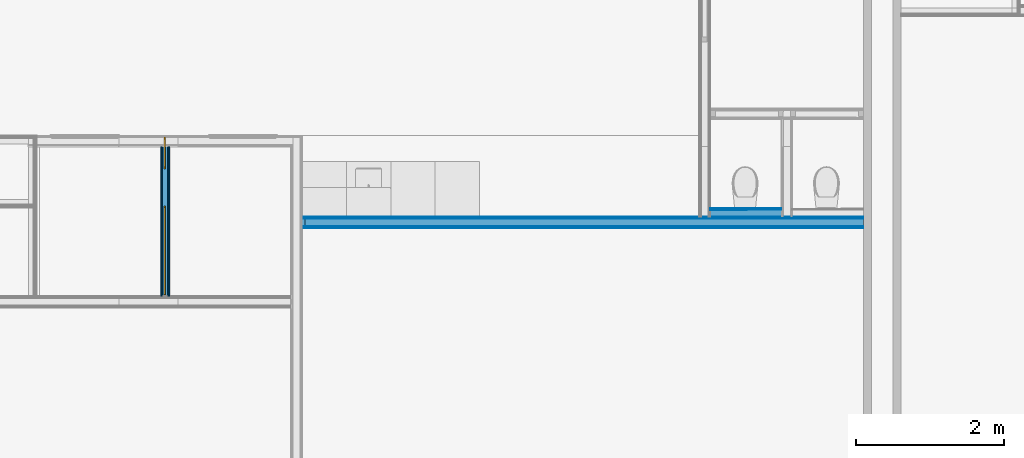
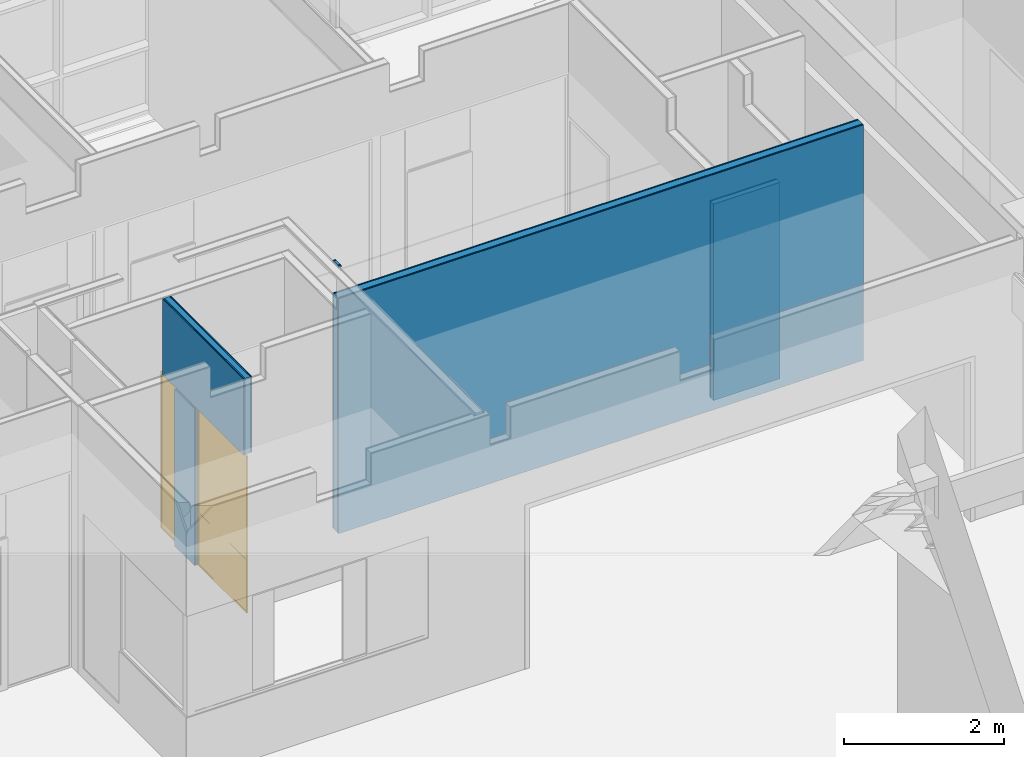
# One storey, part 44 of 109: 13 building element parts, 2 windows, 2 openings, 3 elements without a shape of their own.
"""IFC2X3 building model written with IfcOpenShell, lengths in millimetres."""

from ifc_helpers import new_model, entity, si_unit, converted_unit, derived_unit, money_unit, direction, frame, origin_with_axes, place, context, subcontext, project, spatial, open_shell, faceted_brep, surface_model, material, type_object, element, fill, aggregate, save


model = new_model("IFC2X3")

# Units and contexts
model_context = context("Model", 3, precision=0.01, world=origin_with_axes(), true_north=direction((0.0, 1.0)))
body_context = subcontext(model_context, "Body", "Model", "MODEL_VIEW")
ifc_project = project(units=[si_unit("LENGTHUNIT", "METRE", prefix="MILLI"), si_unit("AREAUNIT", "SQUARE_METRE"), si_unit("VOLUMEUNIT", "CUBIC_METRE"), converted_unit("PLANEANGLEUNIT", "DEGREE", entity("IfcPlaneAngleMeasure", 0.0174532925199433), si_unit("PLANEANGLEUNIT", "RADIAN"), dimensions=[0, 0, 0, 0, 0, 0, 0]), money_unit("EUR"), converted_unit("TIMEUNIT", "Year", entity("IfcTimeMeasure", 31557600.0), si_unit("TIMEUNIT", "SECOND"), dimensions=[0, 0, 1, 0, 0, 0, 0]), si_unit("MASSUNIT", "GRAM", prefix="KILO"), si_unit("THERMODYNAMICTEMPERATUREUNIT", "DEGREE_CELSIUS"), si_unit("LUMINOUSINTENSITYUNIT", "LUMEN"), si_unit("ENERGYUNIT", "JOULE", prefix="MEGA"), derived_unit("THERMALCONDUCTANCEUNIT", [(si_unit("POWERUNIT", "WATT"), 1), (si_unit("LENGTHUNIT", "METRE"), -1), (si_unit("THERMODYNAMICTEMPERATUREUNIT", "KELVIN"), -1)]), derived_unit("SPECIFICHEATCAPACITYUNIT", [(si_unit("ENERGYUNIT", "JOULE"), 1), (si_unit("MASSUNIT", "GRAM", prefix="KILO"), -1), (si_unit("THERMODYNAMICTEMPERATUREUNIT", "KELVIN"), -1)]), derived_unit("MASSDENSITYUNIT", [(si_unit("MASSUNIT", "GRAM", prefix="KILO"), 1), (si_unit("VOLUMEUNIT", "CUBIC_METRE"), -1)])], contexts=[model_context])

# Site, building, storey
site_placement = place(None, origin_with_axes())
site = spatial("IfcSite", under=ifc_project, at=site_placement, Name="<site naam>", CompositionType="ELEMENT")
building_placement = place(site_placement, origin_with_axes())
building = spatial("IfcBuilding", under=site, at=building_placement, Name="<Naam gebouw>", CompositionType="ELEMENT")
storey_placement = place(building_placement, origin_with_axes())
storey = spatial("IfcBuildingStorey", under=building, at=storey_placement, Name="00 Begane grond", CompositionType="ELEMENT", Elevation=0.0)

# Window
window_style = type_object("IfcWindowStyle", Name="R1 27", ConstructionType="NOTDEFINED", OperationType="DOUBLE_PANEL_HORIZONTAL", ParameterTakesPrecedence=False, Sizeable=False)
wall_2_placement = place(storey_placement, frame((2225.000000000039, 14450.00000000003, 0.0), z_axis=(0.0, 0.0, 1.0), x_axis=(0.0, 1.0, 0.0)))
opening_2_placement = place(wall_2_placement, frame((687.4999999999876, 0.0, 0.0), z_axis=(0.0, 0.0, 1.0), x_axis=(1.0, 0.0, 0.0)))
window_1_placement = place(opening_2_placement, frame((612.4999999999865, 0.0, 0.0), z_axis=(0.0, 0.0, 1.0), x_axis=(-1.0, 0.0, 0.0)))
window_1 = element("IfcWindow", 1, at=window_1_placement, inside=storey, type_object=window_style, Name="22_BI-F-28_305", ObjectType="WINDOW", OverallHeight=2400.0, OverallWidth=1225.0, context=body_context, shape_type="SurfaceModel", body=[
    faceted_brep([(24.00000000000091, -16.50000000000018, 788.0), (24.00000000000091, 7.49999999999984, 788.0), (24.00000000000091, 7.49999999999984, 812.0), (24.00000000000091, -16.50000000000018, 812.0), (24.00000000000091, -16.50000000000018, 24.0), (24.00000000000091, 7.49999999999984, 24.0), (0.0, 7.49999999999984, 24.0), (0.0, 7.499999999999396, 2376.0), (24.00000000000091, 7.499999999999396, 2376.0), (24.00000000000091, -16.50000000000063, 2376.0), (0.0, -16.50000000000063, 2376.0), (0.0, -16.50000000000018, 24.0)], [[[0, 1, 2, 3]], [[4, 5, 1, 0]], [[1, 5, 6, 7, 8, 2]], [[3, 2, 8, 9]], [[0, 3, 9, 10, 11, 4]], [[11, 6, 5, 4]], [[10, 7, 6, 11]], [[9, 8, 7, 10]]]),
    faceted_brep([(1200.999999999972, -16.50000000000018, 24.0), (1200.999999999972, 7.49999999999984, 24.0), (1224.999999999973, 7.49999999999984, 24.0), (1224.999999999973, -16.50000000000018, 24.0), (1200.999999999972, -16.50000000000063, 788.0), (1200.999999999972, 7.499999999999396, 788.0), (1200.999999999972, 7.499999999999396, 812.0), (1200.999999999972, 7.499999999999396, 2376.0), (1224.999999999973, 7.499999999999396, 2376.0), (1224.999999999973, -16.50000000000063, 2376.0), (1200.999999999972, -16.50000000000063, 2376.0), (1200.999999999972, -16.50000000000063, 812.0)], [[[0, 1, 2, 3]], [[4, 5, 1, 0]], [[1, 5, 6, 7, 8, 2]], [[3, 2, 8, 9]], [[0, 3, 9, 10, 11, 4]], [[11, 6, 5, 4]], [[10, 7, 6, 11]], [[9, 8, 7, 10]]]),
    faceted_brep([(24.00000000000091, -16.50000000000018, 788.0), (24.00000000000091, 7.49999999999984, 788.0), (1200.999999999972, 7.499999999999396, 788.0), (1200.999999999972, -16.50000000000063, 788.0), (24.00000000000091, -16.50000000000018, 812.0), (24.00000000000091, 7.49999999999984, 812.0), (1200.999999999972, 7.499999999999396, 812.0), (1200.999999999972, -16.50000000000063, 812.0)], [[[0, 1, 2, 3]], [[4, 5, 1, 0]], [[1, 5, 6, 2]], [[3, 2, 6, 7]], [[0, 3, 7, 4]], [[7, 6, 5, 4]]]),
    faceted_brep([(24.00000000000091, -16.50000000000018, 24.0), (24.00000000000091, 7.49999999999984, 24.0), (0.0, 7.49999999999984, 24.0), (0.0, -16.50000000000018, 24.0), (1200.999999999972, -16.50000000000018, 24.0), (1200.999999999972, 7.49999999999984, 24.0), (1224.999999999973, 7.49999999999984, 24.0), (1224.999999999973, 7.49999999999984, 0.0), (0.0, 7.49999999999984, 0.0), (0.0, -16.50000000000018, 0.0), (1224.999999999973, -16.50000000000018, 0.0), (1224.999999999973, -16.50000000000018, 24.0)], [[[0, 1, 2, 3]], [[4, 5, 1, 0]], [[1, 5, 6, 7, 8, 2]], [[3, 2, 8, 9]], [[0, 3, 9, 10, 11, 4]], [[11, 6, 5, 4]], [[10, 7, 6, 11]], [[9, 8, 7, 10]]]),
    faceted_brep([(1200.999999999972, -16.50000000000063, 2376.0), (1200.999999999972, 7.499999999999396, 2376.0), (1224.999999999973, 7.499999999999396, 2376.0), (1224.999999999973, -16.50000000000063, 2376.0), (24.00000000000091, -16.50000000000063, 2376.0), (24.00000000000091, 7.499999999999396, 2376.0), (0.0, 7.499999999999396, 2376.0), (0.0, 7.499999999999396, 2400.0), (1224.999999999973, 7.499999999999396, 2400.0), (1224.999999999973, -16.50000000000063, 2400.0), (0.0, -16.50000000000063, 2400.0), (0.0, -16.50000000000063, 2376.0)], [[[0, 1, 2, 3]], [[4, 5, 1, 0]], [[1, 5, 6, 7, 8, 2]], [[3, 2, 8, 9]], [[0, 3, 9, 10, 11, 4]], [[11, 6, 5, 4]], [[10, 7, 6, 11]], [[9, 8, 7, 10]]]),
    surface_model("IfcShellBasedSurfaceModel", [(24.00000000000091, -12.50000000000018, 812.0), (1200.999999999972, -12.50000000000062, 812.0), (1200.999999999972, -12.50000000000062, 2376.0), (24.00000000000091, -12.50000000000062, 2376.0)], [open_shell([[[0, 1, 2, 3]]])]),
    surface_model("IfcShellBasedSurfaceModel", [(24.00000000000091, 7.49999999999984, 812.0), (24.00000000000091, 7.499999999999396, 2376.0), (1200.999999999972, 7.499999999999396, 2376.0), (1200.999999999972, 7.499999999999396, 812.0)], [open_shell([[[0, 1, 2, 3]]])]),
    surface_model("IfcShellBasedSurfaceModel", [(24.00000000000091, -12.50000000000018, 23.99999999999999), (1200.999999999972, -12.50000000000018, 23.99999999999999), (1200.999999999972, -12.50000000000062, 788.0), (24.00000000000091, -12.50000000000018, 788.0)], [open_shell([[[0, 1, 2, 3]]])]),
    surface_model("IfcShellBasedSurfaceModel", [(24.00000000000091, 7.49999999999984, 24.0), (24.00000000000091, 7.49999999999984, 788.0), (1200.999999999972, 7.499999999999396, 788.0), (1200.999999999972, 7.49999999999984, 24.0)], [open_shell([[[0, 1, 2, 3]]])]),
])

opening_1_placement = place(wall_2_placement, frame((2014.999999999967, 0.0, 0.0), z_axis=(0.0, 0.0, 1.0), x_axis=(1.0, 0.0, 0.0)))
window_2_placement = place(opening_1_placement, frame((214.9999999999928, 0.0, 0.0), z_axis=(0.0, 0.0, 1.0), x_axis=(-1.0, 0.0, 0.0)))
window_2 = element("IfcWindow", 2, at=window_2_placement, inside=storey, type_object=window_style, Name="22_BI-F-29_305", ObjectType="WINDOW", OverallHeight=2400.0, OverallWidth=430.0, context=body_context, shape_type="SurfaceModel", body=[
    faceted_brep([(24.00000000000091, -16.50000000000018, 788.0), (24.00000000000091, 7.49999999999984, 788.0), (24.00000000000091, 7.49999999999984, 812.0), (24.00000000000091, -16.50000000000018, 812.0), (24.00000000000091, -16.50000000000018, 24.0), (24.00000000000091, 7.49999999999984, 24.0), (0.0, 7.49999999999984, 24.0), (0.0, 7.499999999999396, 2376.0), (24.00000000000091, 7.499999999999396, 2376.0), (24.00000000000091, -16.50000000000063, 2376.0), (0.0, -16.50000000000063, 2376.0), (0.0, -16.50000000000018, 24.0)], [[[0, 1, 2, 3]], [[4, 5, 1, 0]], [[1, 5, 6, 7, 8, 2]], [[3, 2, 8, 9]], [[0, 3, 9, 10, 11, 4]], [[11, 6, 5, 4]], [[10, 7, 6, 11]], [[9, 8, 7, 10]]]),
    faceted_brep([(405.9999999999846, -16.50000000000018, 24.0), (405.9999999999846, 7.49999999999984, 24.0), (429.9999999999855, 7.49999999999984, 24.0), (429.9999999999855, -16.50000000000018, 24.0), (405.9999999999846, -16.50000000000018, 788.0), (405.9999999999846, 7.49999999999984, 788.0), (405.9999999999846, 7.49999999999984, 812.0), (405.9999999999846, 7.499999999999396, 2376.0), (429.9999999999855, 7.499999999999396, 2376.0), (429.9999999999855, -16.50000000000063, 2376.0), (405.9999999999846, -16.50000000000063, 2376.0), (405.9999999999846, -16.50000000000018, 812.0)], [[[0, 1, 2, 3]], [[4, 5, 1, 0]], [[1, 5, 6, 7, 8, 2]], [[3, 2, 8, 9]], [[0, 3, 9, 10, 11, 4]], [[11, 6, 5, 4]], [[10, 7, 6, 11]], [[9, 8, 7, 10]]]),
    faceted_brep([(24.00000000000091, -16.50000000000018, 788.0), (24.00000000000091, 7.49999999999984, 788.0), (405.9999999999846, 7.49999999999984, 788.0), (405.9999999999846, -16.50000000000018, 788.0), (24.00000000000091, -16.50000000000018, 812.0), (24.00000000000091, 7.49999999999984, 812.0), (405.9999999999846, 7.49999999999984, 812.0), (405.9999999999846, -16.50000000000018, 812.0)], [[[0, 1, 2, 3]], [[4, 5, 1, 0]], [[1, 5, 6, 2]], [[3, 2, 6, 7]], [[0, 3, 7, 4]], [[7, 6, 5, 4]]]),
    faceted_brep([(24.00000000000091, -16.50000000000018, 24.0), (24.00000000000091, 7.49999999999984, 24.0), (0.0, 7.49999999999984, 24.0), (0.0, -16.50000000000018, 24.0), (405.9999999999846, -16.50000000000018, 24.0), (405.9999999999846, 7.49999999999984, 24.0), (429.9999999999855, 7.49999999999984, 24.0), (429.9999999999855, 7.49999999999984, 0.0), (0.0, 7.49999999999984, 0.0), (0.0, -16.50000000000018, 0.0), (429.9999999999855, -16.50000000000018, 0.0), (429.9999999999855, -16.50000000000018, 24.0)], [[[0, 1, 2, 3]], [[4, 5, 1, 0]], [[1, 5, 6, 7, 8, 2]], [[3, 2, 8, 9]], [[0, 3, 9, 10, 11, 4]], [[11, 6, 5, 4]], [[10, 7, 6, 11]], [[9, 8, 7, 10]]]),
    faceted_brep([(405.9999999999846, -16.50000000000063, 2376.0), (405.9999999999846, 7.499999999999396, 2376.0), (429.9999999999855, 7.499999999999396, 2376.0), (429.9999999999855, -16.50000000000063, 2376.0), (24.00000000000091, -16.50000000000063, 2376.0), (24.00000000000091, 7.499999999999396, 2376.0), (0.0, 7.499999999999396, 2376.0), (0.0, 7.499999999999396, 2400.0), (429.9999999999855, 7.499999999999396, 2400.0), (429.9999999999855, -16.50000000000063, 2400.0), (0.0, -16.50000000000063, 2400.0), (0.0, -16.50000000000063, 2376.0)], [[[0, 1, 2, 3]], [[4, 5, 1, 0]], [[1, 5, 6, 7, 8, 2]], [[3, 2, 8, 9]], [[0, 3, 9, 10, 11, 4]], [[11, 6, 5, 4]], [[10, 7, 6, 11]], [[9, 8, 7, 10]]]),
    surface_model("IfcShellBasedSurfaceModel", [(24.00000000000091, -12.50000000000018, 812.0), (405.9999999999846, -12.50000000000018, 812.0), (405.9999999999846, -12.50000000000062, 2376.0), (24.00000000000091, -12.50000000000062, 2376.0)], [open_shell([[[0, 1, 2, 3]]])]),
    surface_model("IfcShellBasedSurfaceModel", [(24.00000000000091, 7.49999999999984, 812.0), (24.00000000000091, 7.499999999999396, 2376.0), (405.9999999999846, 7.499999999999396, 2376.0), (405.9999999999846, 7.49999999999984, 812.0)], [open_shell([[[0, 1, 2, 3]]])]),
    surface_model("IfcShellBasedSurfaceModel", [(24.00000000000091, -12.50000000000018, 23.99999999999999), (405.9999999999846, -12.50000000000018, 23.99999999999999), (405.9999999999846, -12.50000000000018, 788.0), (24.00000000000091, -12.50000000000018, 788.0)], [open_shell([[[0, 1, 2, 3]]])]),
    surface_model("IfcShellBasedSurfaceModel", [(24.00000000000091, 7.49999999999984, 24.0), (24.00000000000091, 7.49999999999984, 788.0), (405.9999999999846, 7.49999999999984, 788.0), (405.9999999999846, 7.49999999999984, 24.0)], [open_shell([[[0, 1, 2, 3]]])]),
])

# Wall, building element parts
wall_type_1 = type_object("IfcWallType", Name="MS-01 GF 150 ECO DGS/2.100.2.A 150", PredefinedType="NOTDEFINED")
wall_1_placement = place(storey_placement, frame((11665.00000000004, 15524.99999999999, 0.0), z_axis=(0.0, 0.0, 1.0), x_axis=(-1.0, 0.0, 0.0)))
wall_1 = element("IfcWall", 3, at=wall_1_placement, inside=storey, type_object=wall_type_1, Name="22_Binnenwand_MS-01")
ifc_material_1 = material(Name="gipsplaat")
building_element_part_1_placement = place(wall_1_placement, origin_with_axes())
building_element_part_1 = element("IfcBuildingElementPart", 4, at=building_element_part_1_placement, material=ifc_material_1, Name="gipsplaat", context=body_context, shape_type="Brep", body=[
    faceted_brep([(7589.99997176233, 62.5, 3600.0), (7550.000000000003, 62.50000000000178, 3600.0), (0.0, 62.5, 3600.0), (0.0, 62.5, 0.0), (2218.019293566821, 62.5, 0.0), (2218.019293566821, 62.5, 3.000000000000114), (7589.999768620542, 62.5, 3.000000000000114), (7550.000000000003, 75.00014489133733, 3600.0), (7589.99997176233, 74.99999999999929, 3600.0), (4915.000000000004, 74.9999999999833, 3600.0), (0.0, 74.99999999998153, 3600.0), (0.0, 74.99999999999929, 0.0), (2218.019293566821, 75.00014489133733, 0.0), (2218.019293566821, 75.00014489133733, 3.000000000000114), (7589.999768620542, 74.99999999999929, 3.000000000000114)], [[[0, 1, 2, 3, 4, 5, 6]], [[7, 1, 0, 8]], [[1, 7, 9, 10, 2]], [[10, 11, 3, 2]], [[12, 4, 3, 11]], [[5, 4, 12, 13]], [[6, 5, 13, 14]], [[8, 0, 6, 14]], [[7, 8, 14, 13, 12, 11, 10, 9]]]),
    faceted_brep([(7550.000000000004, 75.00000869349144, 4070.0), (7550.000000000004, 62.5, 4070.0), (7550.000000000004, 62.5, 4100.000044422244), (7550.000000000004, 74.99999999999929, 4100.000044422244), (7589.999998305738, 62.5, 4070.0), (7589.999998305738, 74.99999999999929, 4070.0), (7590.000000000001, 62.5, 4100.000044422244), (7590.000000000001, 74.99999999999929, 4100.000044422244)], [[[0, 1, 2, 3]], [[4, 1, 0, 5]], [[1, 4, 6, 2]], [[2, 6, 7, 3]], [[5, 0, 3, 7]], [[4, 5, 7, 6]]]),
])
building_element_part_2_placement = place(wall_1_placement, origin_with_axes())
building_element_part_2 = element("IfcBuildingElementPart", 5, at=building_element_part_2_placement, material=ifc_material_1, Name="gipsplaat", context=body_context, shape_type="Brep", body=[
    faceted_brep([(7589.99997176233, 49.99999999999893, 3600.0), (7550.000000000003, 49.99999999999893, 3600.0), (0.0, 50.00000000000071, 3600.0), (0.0, 50.00000000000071, 0.0), (2218.019293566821, 49.99999999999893, 0.0), (2218.019293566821, 49.99999999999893, 3.000000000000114), (7589.999768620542, 49.99999999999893, 3.000000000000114), (7550.000000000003, 62.50000000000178, 3600.0), (7589.99997176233, 62.5, 3600.0), (0.0, 62.5, 3600.0), (0.0, 62.5, 0.0), (2218.019293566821, 62.5, 0.0), (2218.019293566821, 62.5, 3.000000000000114), (7589.999768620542, 62.5, 3.000000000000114)], [[[0, 1, 2, 3, 4, 5, 6]], [[7, 1, 0, 8]], [[1, 7, 9, 2]], [[9, 10, 3, 2]], [[11, 4, 3, 10]], [[5, 4, 11, 12]], [[6, 5, 12, 13]], [[8, 0, 6, 13]], [[7, 8, 13, 12, 11, 10, 9]]]),
    faceted_brep([(7550.000000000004, 62.5, 4070.0), (7550.000000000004, 49.99999999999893, 4070.0), (7550.000000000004, 49.99999999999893, 4100.000044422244), (7550.000000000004, 62.5, 4100.000044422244), (7589.999998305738, 49.99999999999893, 4070.0), (7589.999998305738, 62.5, 4070.0), (7590.000000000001, 49.99999999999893, 4100.000044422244), (7590.000000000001, 62.5, 4100.000044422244)], [[[0, 1, 2, 3]], [[4, 1, 0, 5]], [[1, 4, 6, 2]], [[2, 6, 7, 3]], [[5, 0, 3, 7]], [[4, 5, 7, 6]]]),
])
ifc_material_2 = material(Name="isolatie_steenwol LSW")
building_element_part_3_placement = place(wall_1_placement, origin_with_axes())
building_element_part_3 = element("IfcBuildingElementPart", 6, at=building_element_part_3_placement, material=ifc_material_2, Name="isolatie_steenwol LSW", context=body_context, shape_type="Brep", body=[
    faceted_brep([(7589.99997176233, -50.00000000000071, 3600.0), (7550.000000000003, -50.00000000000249, 3600.0), (0.0, -49.99999999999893, 3600.0), (0.0, -50.00000000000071, 0.0), (2218.019293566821, -50.00000000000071, 0.0), (2218.019293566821, -50.00000000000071, 3.000000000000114), (7589.999768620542, -50.00000000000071, 3.000000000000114), (7550.000000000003, 49.99999999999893, 3600.0), (7589.99997176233, 49.99999999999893, 3600.0), (0.0, 50.00000000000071, 3600.0), (0.0, 50.00000000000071, 0.0), (2218.019293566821, 50.00000000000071, 0.0), (2218.019293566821, 49.99999999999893, 3.000000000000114), (7589.999768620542, 49.99999999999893, 3.000000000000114)], [[[0, 1, 2, 3, 4, 5, 6]], [[7, 1, 0, 8]], [[1, 7, 9, 2]], [[9, 10, 3, 2]], [[11, 4, 3, 10]], [[5, 4, 11, 12]], [[6, 5, 12, 13]], [[8, 0, 6, 13]], [[7, 8, 13, 12, 11, 10, 9]]]),
    faceted_brep([(7550.000000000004, 49.99999999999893, 4070.0), (7550.000000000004, -50.00000000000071, 4070.0), (7550.000000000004, -50.00000000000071, 4100.000044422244), (7550.000000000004, 49.99999999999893, 4100.000044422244), (7589.999998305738, -50.00000000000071, 4070.0), (7589.999998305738, 49.99999999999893, 4070.0), (7590.000000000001, -50.00000000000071, 4100.000044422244), (7590.000000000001, 49.99999999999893, 4100.000044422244)], [[[0, 1, 2, 3]], [[4, 1, 0, 5]], [[1, 4, 6, 2]], [[2, 6, 7, 3]], [[5, 0, 3, 7]], [[4, 5, 7, 6]]]),
])
building_element_part_4_placement = place(wall_1_placement, origin_with_axes())
building_element_part_4 = element("IfcBuildingElementPart", 7, at=building_element_part_4_placement, material=ifc_material_1, Name="gipsplaat", context=body_context, shape_type="Brep", body=[
    faceted_brep([(7589.99997176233, -75.00000000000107, 3600.0), (7550.000000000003, -75.00000000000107, 3600.0), (0.0, -74.99999999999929, 3600.0), (0.0, -74.99999999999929, 0.0), (2218.019293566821, -74.99999999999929, 0.0), (2218.019293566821, -75.00000000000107, 3.000000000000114), (7589.999768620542, -75.00000000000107, 3.000000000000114), (7550.000000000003, -62.5, 3600.0), (7589.99997176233, -62.5, 3600.0), (0.0, -62.5, 3600.0), (0.0, -62.5, 0.0), (2218.019293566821, -62.5, 0.0), (2218.019293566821, -62.5, 3.000000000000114), (7589.999768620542, -62.5, 3.000000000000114)], [[[0, 1, 2, 3, 4, 5, 6]], [[7, 1, 0, 8]], [[1, 7, 9, 2]], [[9, 10, 3, 2]], [[11, 4, 3, 10]], [[5, 4, 11, 12]], [[6, 5, 12, 13]], [[8, 0, 6, 13]], [[7, 8, 13, 12, 11, 10, 9]]]),
    faceted_brep([(7550.000000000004, -62.5, 4070.0), (7550.000000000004, -75.00000000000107, 4070.0), (7550.000000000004, -75.00000000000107, 4100.000044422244), (7550.000000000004, -62.5, 4100.000044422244), (7589.999998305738, -75.00000000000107, 4070.0), (7589.999998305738, -62.5, 4070.0), (7590.000000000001, -75.00000000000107, 4100.000044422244), (7590.000000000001, -62.5, 4100.000044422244)], [[[0, 1, 2, 3]], [[4, 1, 0, 5]], [[1, 4, 6, 2]], [[2, 6, 7, 3]], [[5, 0, 3, 7]], [[4, 5, 7, 6]]]),
])
building_element_part_5_placement = place(wall_1_placement, origin_with_axes())
building_element_part_5 = element("IfcBuildingElementPart", 8, at=building_element_part_5_placement, material=ifc_material_1, Name="gipsplaat", context=body_context, shape_type="Brep", body=[
    faceted_brep([(7589.99997176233, -62.5, 3600.0), (7550.000000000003, -62.5, 3600.0), (0.0, -62.5, 3600.0), (0.0, -62.5, 0.0), (2218.019293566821, -62.50000000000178, 0.0), (2218.019293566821, -62.5, 3.000000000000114), (7589.999768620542, -62.5, 3.000000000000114), (7550.000000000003, -50.00000000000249, 3600.0), (7589.99997176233, -50.00000000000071, 3600.0), (0.0, -49.99999999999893, 3600.0), (0.0, -50.00000000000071, 0.0), (2218.019293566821, -50.00000000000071, 0.0), (2218.019293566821, -50.00000000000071, 3.000000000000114), (7589.999768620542, -50.00000000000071, 3.000000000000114)], [[[0, 1, 2, 3, 4, 5, 6]], [[7, 1, 0, 8]], [[1, 7, 9, 2]], [[9, 10, 3, 2]], [[11, 4, 3, 10]], [[5, 4, 11, 12]], [[6, 5, 12, 13]], [[8, 0, 6, 13]], [[7, 8, 13, 12, 11, 10, 9]]]),
    faceted_brep([(7550.000000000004, -50.00000000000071, 4070.0), (7550.000000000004, -62.5, 4070.0), (7550.000000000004, -62.5, 4100.000044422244), (7550.000000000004, -50.00000000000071, 4100.000044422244), (7589.999998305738, -62.5, 4070.0), (7589.999998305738, -50.00000000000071, 4070.0), (7590.000000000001, -62.5, 4100.000044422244), (7590.000000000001, -50.00000000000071, 4100.000044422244)], [[[0, 1, 2, 3]], [[4, 1, 0, 5]], [[1, 4, 6, 2]], [[2, 6, 7, 3]], [[5, 0, 3, 7]], [[4, 5, 7, 6]]]),
])
aggregate(wall_1, [building_element_part_1, building_element_part_2, building_element_part_3, building_element_part_4, building_element_part_5])

# Wall, opening
wall_type_2 = type_object("IfcWallType", Name="MS-02 GF 125 ECO DGS/2.75.2.A 125", PredefinedType="NOTDEFINED")
wall_2 = element("IfcWall", 9, at=wall_2_placement, inside=storey, type_object=wall_type_2, Name="22_Binnenwand_MS-02")
opening_1 = element("IfcOpeningElement", 10, at=opening_1_placement, cuts=wall_2, Name="22_BI-F-29_305", context=body_context, shape_type="Brep", body=[
    faceted_brep([(214.9999999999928, -7.49999999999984, 0.0), (214.9999999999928, -7.499999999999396, 2400.0), (214.9999999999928, -63.50000000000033, 2400.0), (214.9999999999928, -63.50000000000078, 0.0), (214.9999999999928, 63.49999999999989, 0.0), (214.9999999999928, 63.50000000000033, 2400.0), (-214.9999999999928, -7.499999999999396, 2400.0), (-214.9999999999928, -63.50000000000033, 2400.0), (-214.9999999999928, -63.50000000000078, 0.0), (-214.9999999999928, -7.49999999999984, 0.0), (-214.9999999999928, 63.49999999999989, 0.0), (-214.9999999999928, 63.50000000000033, 2400.0)], [[[0, 1, 2, 3]], [[1, 0, 4, 5]], [[1, 6, 7, 2]], [[7, 8, 3, 2]], [[9, 0, 3, 8]], [[0, 9, 10, 4]], [[5, 4, 10, 11]], [[6, 1, 5, 11]], [[6, 9, 8, 7]], [[9, 6, 11, 10]]]),
])

fill(opening_1, window_2)

# Opening
opening_2 = element("IfcOpeningElement", 11, at=opening_2_placement, cuts=wall_2, Name="22_BI-F-28_305", context=body_context, shape_type="Brep", body=[
    faceted_brep([(612.4999999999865, -7.49999999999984, 0.0), (612.4999999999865, -7.49999999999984, 2400.0), (612.4999999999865, -63.50000000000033, 2400.0), (612.4999999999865, -63.50000000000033, 0.0), (612.4999999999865, 63.49999999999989, 0.0), (612.4999999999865, 63.49999999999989, 2400.0), (-612.4999999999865, -7.499999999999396, 2400.0), (-612.4999999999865, -63.49999999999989, 2400.0), (-612.4999999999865, -63.49999999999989, 0.0), (-612.4999999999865, -7.499999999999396, 0.0), (-612.4999999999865, 63.50000000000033, 0.0), (-612.4999999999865, 63.50000000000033, 2400.0)], [[[0, 1, 2, 3]], [[1, 0, 4, 5]], [[1, 6, 7, 2]], [[7, 8, 3, 2]], [[9, 0, 3, 8]], [[0, 9, 10, 4]], [[5, 4, 10, 11]], [[6, 1, 5, 11]], [[6, 9, 8, 7]], [[9, 6, 11, 10]]]),
])

fill(opening_2, window_1)

# Building element part
building_element_part_6_placement = place(wall_2_placement, origin_with_axes())
building_element_part_6 = element("IfcBuildingElementPart", 12, at=building_element_part_6_placement, material=ifc_material_1, Name="gipsplaat", context=body_context, shape_type="Brep", body=[
    faceted_brep([(2100.000067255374, 62.50000000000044, 2440.0), (2100.000019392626, 62.50000000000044, 3600.0), (2100.000019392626, 50.00000000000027, 3600.0), (2100.000067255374, 50.00000000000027, 2440.0), (75.00000000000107, 62.50000000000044, 2440.0), (75.00000000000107, 62.50000000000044, 3600.0), (75.00000000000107, 49.99999999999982, 3600.0), (75.00000000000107, 49.99999999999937, 2440.0)], [[[0, 1, 2, 3]], [[4, 5, 1, 0]], [[5, 6, 2, 1]], [[3, 2, 6, 7]], [[7, 4, 0, 3]], [[7, 6, 5, 4]]]),
    faceted_brep([(2099.99999999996, 62.5, 0.0), (2100.000067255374, 62.49999999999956, 2400.0), (2100.000067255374, 49.99999999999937, 2400.0), (2099.99999999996, 49.99999999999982, 0.0), (74.99999999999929, 62.5, 0.0), (75.00000000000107, 62.50000000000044, 2400.0), (75.00000000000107, 50.00000000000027, 2400.0), (74.99999999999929, 49.99999999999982, 0.0)], [[[0, 1, 2, 3]], [[4, 5, 1, 0]], [[5, 6, 2, 1]], [[3, 2, 6, 7]], [[4, 0, 3, 7]], [[7, 6, 5, 4]]]),
])

building_element_part_7_placement = place(wall_2_placement, origin_with_axes())
building_element_part_7 = element("IfcBuildingElementPart", 13, at=building_element_part_7_placement, material=ifc_material_1, Name="gipsplaat", context=body_context, shape_type="Brep", body=[
    faceted_brep([(2100.000067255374, 50.00000000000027, 2440.0), (2100.000019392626, 50.00000000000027, 3600.0), (2100.000019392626, 37.50000000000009, 3600.0), (2100.000067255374, 37.50000000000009, 2440.0), (75.00000000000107, 50.00000000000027, 2440.0), (75.00000000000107, 50.00000000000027, 3600.0), (75.00000000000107, 37.50000000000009, 3600.0), (75.00000000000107, 37.49999999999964, 2440.0)], [[[0, 1, 2, 3]], [[4, 5, 1, 0]], [[5, 6, 2, 1]], [[3, 2, 6, 7]], [[7, 4, 0, 3]], [[7, 6, 5, 4]]]),
    faceted_brep([(2099.99999999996, 49.99999999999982, 0.0), (2100.000067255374, 49.99999999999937, 2400.0), (2100.000067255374, 37.50000000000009, 2400.0), (2099.99999999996, 37.50000000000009, 0.0), (74.99999999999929, 49.99999999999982, 0.0), (75.00000000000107, 50.00000000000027, 2400.0), (75.00000000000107, 37.50000000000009, 2400.0), (74.99999999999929, 37.50000000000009, 0.0)], [[[0, 1, 2, 3]], [[4, 5, 1, 0]], [[5, 6, 2, 1]], [[3, 2, 6, 7]], [[4, 0, 3, 7]], [[7, 6, 5, 4]]]),
])

building_element_part_8_placement = place(wall_2_placement, origin_with_axes())
building_element_part_8 = element("IfcBuildingElementPart", 14, at=building_element_part_8_placement, material=ifc_material_1, Name="gipsplaat", context=body_context, shape_type="Brep", body=[
    faceted_brep([(2100.000067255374, -37.4999999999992, 2440.0), (2100.000019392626, -37.49999999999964, 3600.0), (2100.000019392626, -49.99999999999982, 3600.0), (2100.000067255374, -49.99999999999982, 2440.0), (75.00000000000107, -37.49999999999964, 2440.0), (75.00000000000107, -37.49999999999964, 3600.0), (75.00000000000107, -49.99999999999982, 3600.0), (75.00000000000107, -50.00000000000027, 2440.0)], [[[0, 1, 2, 3]], [[4, 5, 1, 0]], [[5, 6, 2, 1]], [[3, 2, 6, 7]], [[7, 4, 0, 3]], [[7, 6, 5, 4]]]),
    faceted_brep([(2099.99999999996, -37.50000000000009, 0.0), (2100.000067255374, -37.50000000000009, 2400.0), (2100.000067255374, -49.99999999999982, 2400.0), (2099.99999999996, -49.99999999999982, 0.0), (74.99999999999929, -37.50000000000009, 0.0), (75.00000000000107, -37.50000000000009, 2400.0), (75.00000000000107, -49.99999999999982, 2400.0), (74.99999999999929, -49.99999999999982, 0.0)], [[[0, 1, 2, 3]], [[4, 5, 1, 0]], [[5, 6, 2, 1]], [[3, 2, 6, 7]], [[4, 0, 3, 7]], [[7, 6, 5, 4]]]),
])

building_element_part_9_placement = place(wall_2_placement, origin_with_axes())
building_element_part_9 = element("IfcBuildingElementPart", 15, at=building_element_part_9_placement, material=ifc_material_1, Name="gipsplaat", context=body_context, shape_type="Brep", body=[
    faceted_brep([(2100.000067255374, -49.99999999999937, 2440.0), (2100.000019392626, -49.99999999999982, 3600.0), (2100.000019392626, -62.49999999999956, 3600.0), (2100.000067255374, -62.49999999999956, 2440.0), (75.00000000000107, -49.99999999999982, 2440.0), (75.00000000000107, -49.99999999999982, 3600.0), (75.00000000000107, -62.5, 3600.0), (75.00000000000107, -62.50000000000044, 2440.0)], [[[0, 1, 2, 3]], [[4, 5, 1, 0]], [[5, 6, 2, 1]], [[3, 2, 6, 7]], [[7, 4, 0, 3]], [[7, 6, 5, 4]]]),
    faceted_brep([(2099.99999999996, -49.99999999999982, 0.0), (2100.000067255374, -50.00000000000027, 2400.0), (2100.000067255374, -62.50000000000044, 2400.0), (2099.99999999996, -62.5, 0.0), (74.99999999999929, -49.99999999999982, 0.0), (75.00000000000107, -49.99999999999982, 2400.0), (75.00000000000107, -62.5, 2400.0), (74.99999999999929, -62.5, 0.0)], [[[0, 1, 2, 3]], [[4, 5, 1, 0]], [[5, 6, 2, 1]], [[3, 2, 6, 7]], [[4, 0, 3, 7]], [[7, 6, 5, 4]]]),
])

building_element_part_10_placement = place(wall_2_placement, origin_with_axes())
building_element_part_10 = element("IfcBuildingElementPart", 16, at=building_element_part_10_placement, material=ifc_material_2, Name="isolatie_steenwol LSW", context=body_context, shape_type="Brep", body=[
    faceted_brep([(2100.000067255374, 37.50000000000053, 2440.0), (2100.000019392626, 37.50000000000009, 3600.0), (2100.000019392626, -37.49999999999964, 3600.0), (2100.000067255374, -37.49999999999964, 2440.0), (75.00000000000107, 37.50000000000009, 2440.0), (75.00000000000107, 37.50000000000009, 3600.0), (75.00000000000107, -37.49999999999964, 3600.0), (75.00000000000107, -37.50000000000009, 2440.0)], [[[0, 1, 2, 3]], [[4, 5, 1, 0]], [[5, 6, 2, 1]], [[3, 2, 6, 7]], [[7, 4, 0, 3]], [[7, 6, 5, 4]]]),
    faceted_brep([(2099.99999999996, 37.50000000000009, 0.0), (2100.000067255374, 37.49999999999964, 2400.0), (2100.000067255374, -37.50000000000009, 2400.0), (2099.99999999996, -37.50000000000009, 0.0), (74.99999999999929, 37.50000000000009, 0.0), (75.00000000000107, 37.50000000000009, 2400.0), (75.00000000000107, -37.50000000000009, 2400.0), (74.99999999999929, -37.50000000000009, 0.0)], [[[0, 1, 2, 3]], [[4, 5, 1, 0]], [[5, 6, 2, 1]], [[3, 2, 6, 7]], [[4, 0, 3, 7]], [[7, 6, 5, 4]]]),
])

aggregate(wall_2, [building_element_part_6, building_element_part_7, building_element_part_8, building_element_part_9, building_element_part_10])

# Wall, building element parts
wall_type_3 = type_object("IfcWallType", Name="MS-03 GF 100 HTT DGS V/100.2 100", PredefinedType="NOTDEFINED")
wall_3_placement = place(storey_placement, frame((9596.980742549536, 15719.22228803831, 0.0), z_axis=(0.0, 0.0, 1.0), x_axis=(0.999999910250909, 0.0004236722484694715, 0.0)))
wall_3 = element("IfcWall", 17, at=wall_3_placement, inside=storey, type_object=wall_type_3, Name="22_Binnenwand_MS-03")
building_element_part_11_placement = place(wall_3_placement, origin_with_axes())
building_element_part_11 = element("IfcBuildingElementPart", 18, at=building_element_part_11_placement, material=ifc_material_1, Name="gipsplaat", context=body_context, shape_type="Brep", body=[
    faceted_brep([(958.9894759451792, -24.99999999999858, 2.999999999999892), (958.9947718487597, -12.49999999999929, 3.000000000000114), (958.9947718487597, -12.49999999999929, 3008.0), (958.9894759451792, -24.99999999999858, 3008.0), (-0.00529590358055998, -12.49999999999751, 2.999999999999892), (-0.01059180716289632, -24.99999999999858, 2.999999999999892), (-0.00529590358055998, -12.49999999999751, 3008.0), (-0.01059180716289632, -24.99999999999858, 3008.0)], [[[0, 1, 2, 3]], [[4, 1, 0, 5]], [[1, 4, 6, 2]], [[3, 2, 6, 7]], [[5, 0, 3, 7]], [[4, 5, 7, 6]]]),
])
building_element_part_12_placement = place(wall_3_placement, origin_with_axes())
building_element_part_12 = element("IfcBuildingElementPart", 19, at=building_element_part_12_placement, material=ifc_material_2, Name="isolatie_steenwol LSW", context=body_context, shape_type="Brep", body=[
    faceted_brep([(958.9577005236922, -99.99999999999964, 2.999999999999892), (958.9894759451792, -24.99999999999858, 3.000000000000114), (958.9894759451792, -24.99999999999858, 3008.0), (958.9577005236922, -99.99999999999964, 3008.0), (-0.01059180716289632, -24.99999999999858, 2.999999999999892), (-0.04236722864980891, -99.99999999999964, 2.999999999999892), (-0.01059180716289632, -24.99999999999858, 3008.0), (-0.04236722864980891, -99.99999999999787, 3008.0)], [[[0, 1, 2, 3]], [[4, 1, 0, 5]], [[1, 4, 6, 2]], [[3, 2, 6, 7]], [[5, 0, 3, 7]], [[4, 5, 7, 6]]]),
])
building_element_part_13_placement = place(wall_3_placement, origin_with_axes())
building_element_part_13 = element("IfcBuildingElementPart", 20, at=building_element_part_13_placement, material=ifc_material_1, Name="gipsplaat", context=body_context, shape_type="Brep", body=[
    faceted_brep([(958.9998956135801, -0.4063016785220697, 2400.0), (958.9998956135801, -0.4063016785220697, 2440.0), (959.0000677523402, 0.0, 2440.0), (959.0000677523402, 0.0, 3008.0), (958.9947718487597, -12.49999999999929, 3008.0), (958.9947718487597, -12.49999999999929, 2.999999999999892), (959.0000677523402, 0.0, 3.000000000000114), (959.0000677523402, 0.0, 2400.0), (0.0, 0.0, 2400.0), (0.0, 0.0, 2440.0), (0.0, 0.0, 3008.0), (-0.00529590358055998, -12.49999999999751, 3008.0), (-0.00529590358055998, -12.49999999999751, 2.999999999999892), (0.0, 0.0, 2.999999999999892)], [[[0, 1, 2, 3, 4, 5, 6, 7]], [[1, 0, 8, 9]], [[9, 2, 1]], [[2, 9, 10, 3]], [[4, 3, 10, 11]], [[12, 5, 4, 11]], [[13, 6, 5, 12]], [[8, 7, 6, 13]], [[0, 7, 8]], [[9, 8, 13, 12, 11, 10]]]),
])
aggregate(wall_3, [building_element_part_11, building_element_part_12, building_element_part_13])

save(model, "model.ifc")
